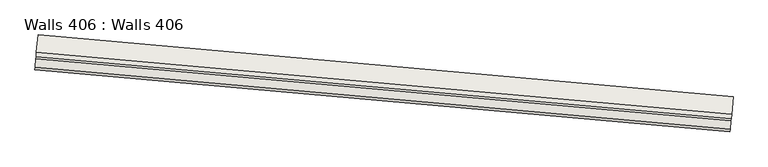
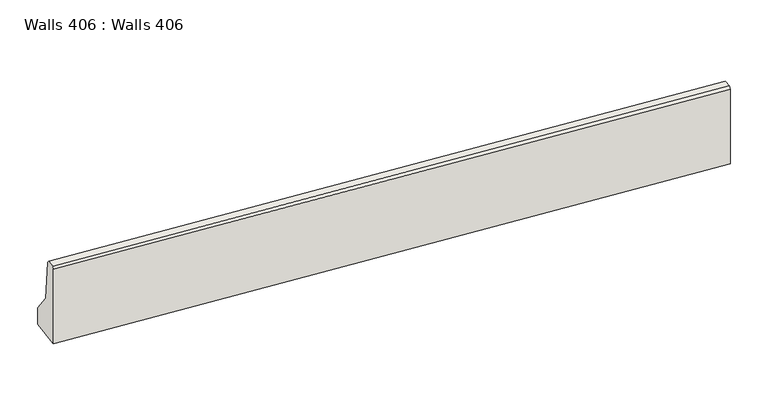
"""IFC4 building model written with IfcOpenShell, lengths in millimetres: wall geometry, Walls 406 : Walls 406."""

from ifc_helpers import new_model, si_unit, frame, origin, place, context, project, spatial, polyline, outline, extrude, source, transform, mapped, element, save


def walls_406_walls_406_b96f62ef(model_context):
    return source(origin(), model_context, "Body", "SweptSolid", [
        extrude(outline(polyline([(638180.0, 400.0), (638430.0, 200.0), (638935.0, 150.0000001), (638960.0, 125.0), (638960.0, 25.0), (638935.0, 0.0), (637960.0, 0.0), (637960.0, 400.0), (638180.0, 400.0)])), frame((-539205.6410709, -431043.3342462, 0.0), z_axis=(-0.9960550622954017, 0.08873732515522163, 0.0), x_axis=(0.0, 0.0, 1.0)), (0.0, 0.0, 1.0), 8000.0000001),
    ])


if __name__ == "__main__":
    model = new_model("IFC4")
    model_context = context("Model", 3, world=origin())
    ifc_project = project(units=[si_unit("LENGTHUNIT", "METRE", prefix="MILLI")], contexts=[model_context])
    site = spatial("IfcSite", under=ifc_project)
    building = spatial("IfcBuilding", under=site)
    placement = place(None, origin())
    walls_406_walls_406_shape = walls_406_walls_406_b96f62ef(model_context)
    element("IfcWall", 1, ObjectType="Walls 406 : Walls 406", at=placement, inside=building, context=model_context, shape_type="MappedRepresentation", body=[
        mapped(walls_406_walls_406_shape, transform((0.0, 0.0, 0.0), x_axis=(1.0, 0.0, 0.0), y_axis=(0.0, 1.0, 0.0), z_axis=(0.0, 0.0, 1.0))),
    ])
    save(model, "model.ifc")
